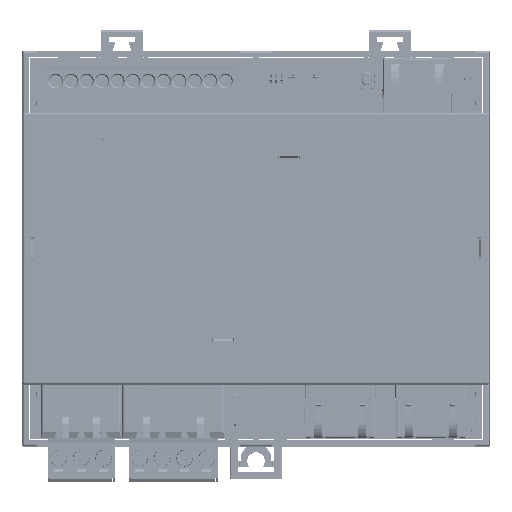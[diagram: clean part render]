
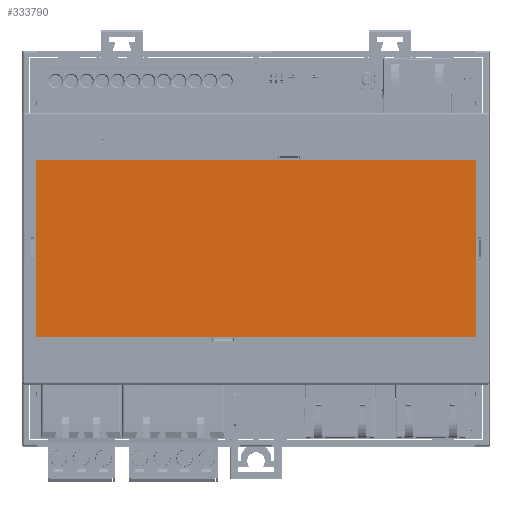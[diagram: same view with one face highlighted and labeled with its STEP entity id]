
A CAD part, top view. The second image highlights one B-rep face of the part: STEP entity #333790.
In plain terms, the highlighted planar face has unit normal (0, 0, 1) as drawn and (0, 0, -1) by its records, which use the part's own axes.
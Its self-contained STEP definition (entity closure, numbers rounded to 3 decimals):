
#26862=FACE_OUTER_BOUND('',#44627,.T.);
#44627=EDGE_LOOP('',(#227486,#227487,#227488,#227489));
#66795=LINE('',#472107,#105265);
#66797=LINE('',#472111,#105267);
#66799=LINE('',#472115,#105269);
#66801=LINE('',#472118,#105271);
#105265=VECTOR('',#381779,1000.);
#105267=VECTOR('',#381783,1000.);
#105269=VECTOR('',#381787,1000.);
#105271=VECTOR('',#381791,1000.);
#143274=VERTEX_POINT('',#472104);
#143275=VERTEX_POINT('',#472106);
#143276=VERTEX_POINT('',#472110);
#143277=VERTEX_POINT('',#472114);
#176418=EDGE_CURVE('',#143275,#143274,#66795,.T.);
#176420=EDGE_CURVE('',#143276,#143275,#66797,.T.);
#176422=EDGE_CURVE('',#143277,#143276,#66799,.T.);
#176424=EDGE_CURVE('',#143274,#143277,#66801,.T.);
#227486=ORIENTED_EDGE('',*,*,#176422,.T.);
#227487=ORIENTED_EDGE('',*,*,#176420,.T.);
#227488=ORIENTED_EDGE('',*,*,#176418,.T.);
#227489=ORIENTED_EDGE('',*,*,#176424,.T.);
#321095=PLANE('',#352981);
#333790=ADVANCED_FACE('',(#26862),#321095,.T.);
#352981=AXIS2_PLACEMENT_3D('',#472119,#381792,#381793);
#381779=DIRECTION('',(0.,-1.,0.));
#381783=DIRECTION('',(1.,0.,0.));
#381787=DIRECTION('',(0.,1.,0.));
#381791=DIRECTION('',(-1.,0.,0.));
#381792=DIRECTION('center_axis',(0.,0.,-1.));
#381793=DIRECTION('ref_axis',(-1.,0.,0.));
#472104=CARTESIAN_POINT('',(20.,-50.,0.3));
#472106=CARTESIAN_POINT('',(20.,50.,0.3));
#472107=CARTESIAN_POINT('',(20.,50.,0.3));
#472110=CARTESIAN_POINT('',(-20.,50.,0.3));
#472111=CARTESIAN_POINT('',(-20.,50.,0.3));
#472114=CARTESIAN_POINT('',(-20.,-50.,0.3));
#472115=CARTESIAN_POINT('',(-20.,-50.,0.3));
#472118=CARTESIAN_POINT('',(20.,-50.,0.3));
#472119=CARTESIAN_POINT('Origin',(20.,-50.,0.3));
